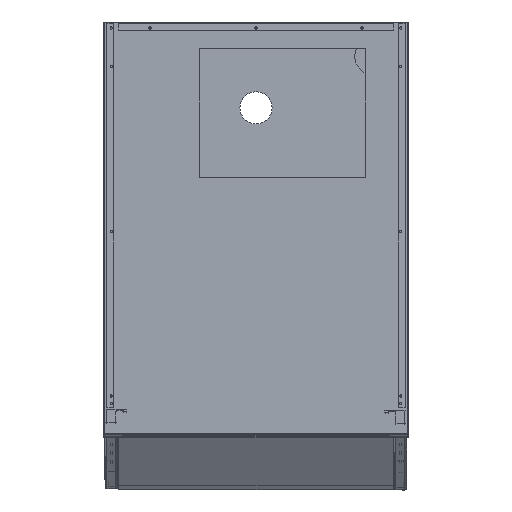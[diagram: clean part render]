
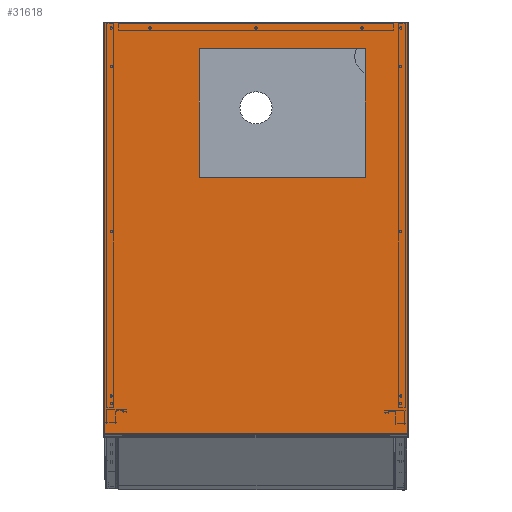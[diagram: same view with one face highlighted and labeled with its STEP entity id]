
A CAD part, top view. The second image highlights one B-rep face of the part: STEP entity #31618.
In plain terms, the highlighted planar face has unit normal (0, 0, 1).
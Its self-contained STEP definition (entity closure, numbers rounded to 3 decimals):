
#6801=ORIENTED_EDGE('',*,*,#14221,.F.);
#6802=ORIENTED_EDGE('',*,*,#14222,.F.);
#6803=ORIENTED_EDGE('',*,*,#14223,.F.);
#6804=ORIENTED_EDGE('',*,*,#14224,.F.);
#6805=ORIENTED_EDGE('',*,*,#14171,.F.);
#6806=ORIENTED_EDGE('',*,*,#14219,.F.);
#6807=ORIENTED_EDGE('',*,*,#14190,.F.);
#6808=ORIENTED_EDGE('',*,*,#14225,.T.);
#6809=ORIENTED_EDGE('',*,*,#14178,.F.);
#6810=ORIENTED_EDGE('',*,*,#14226,.T.);
#6811=ORIENTED_EDGE('',*,*,#14182,.F.);
#6812=ORIENTED_EDGE('',*,*,#14227,.T.);
#14171=EDGE_CURVE('',#18191,#18189,#21313,.T.);
#14178=EDGE_CURVE('',#18198,#18199,#21317,.T.);
#14182=EDGE_CURVE('',#18202,#18203,#21319,.T.);
#14190=EDGE_CURVE('',#18210,#18211,#21324,.T.);
#14219=EDGE_CURVE('',#18211,#18191,#21349,.T.);
#14221=EDGE_CURVE('',#18234,#18235,#21351,.T.);
#14222=EDGE_CURVE('',#18236,#18234,#21352,.T.);
#14223=EDGE_CURVE('',#18237,#18236,#21353,.T.);
#14224=EDGE_CURVE('',#18235,#18237,#21354,.T.);
#14225=EDGE_CURVE('',#18210,#18199,#21355,.T.);
#14226=EDGE_CURVE('',#18198,#18203,#21356,.T.);
#14227=EDGE_CURVE('',#18202,#18189,#21357,.T.);
#18189=VERTEX_POINT('',#49992);
#18191=VERTEX_POINT('',#49996);
#18198=VERTEX_POINT('',#50014);
#18199=VERTEX_POINT('',#50016);
#18202=VERTEX_POINT('',#50029);
#18203=VERTEX_POINT('',#50031);
#18210=VERTEX_POINT('',#50049);
#18211=VERTEX_POINT('',#50051);
#18234=VERTEX_POINT('',#50112);
#18235=VERTEX_POINT('',#50113);
#18236=VERTEX_POINT('',#50115);
#18237=VERTEX_POINT('',#50117);
#21313=LINE('',#49997,#24234);
#21317=LINE('',#50015,#24238);
#21319=LINE('',#50030,#24240);
#21324=LINE('',#50050,#24245);
#21349=LINE('',#50108,#24270);
#21351=LINE('',#50111,#24272);
#21352=LINE('',#50114,#24273);
#21353=LINE('',#50116,#24274);
#21354=LINE('',#50118,#24275);
#21355=LINE('',#50119,#24276);
#21356=LINE('',#50120,#24277);
#21357=LINE('',#50121,#24278);
#24234=VECTOR('',#39810,1000.);
#24238=VECTOR('',#39820,1000.);
#24240=VECTOR('',#39824,1000.);
#24245=VECTOR('',#39835,1000.);
#24270=VECTOR('',#39880,1000.);
#24272=VECTOR('',#39884,1000.);
#24273=VECTOR('',#39885,1000.);
#24274=VECTOR('',#39886,1000.);
#24275=VECTOR('',#39887,1000.);
#24276=VECTOR('',#39888,1000.);
#24277=VECTOR('',#39889,1000.);
#24278=VECTOR('',#39890,1000.);
#26713=EDGE_LOOP('',(#6801,#6802,#6803,#6804));
#26714=EDGE_LOOP('',(#6805,#6806,#6807,#6808,#6809,#6810,#6811,#6812));
#28862=FACE_BOUND('',#26713,.T.);
#28863=FACE_BOUND('',#26714,.T.);
#30489=PLANE('',#34079);
#31618=ADVANCED_FACE('',(#28862,#28863),#30489,.T.);
#34079=AXIS2_PLACEMENT_3D('',#50110,#39882,#39883);
#39810=DIRECTION('',(0.,-1.,0.));
#39820=DIRECTION('',(0.,1.,0.));
#39824=DIRECTION('',(0.,-1.,0.));
#39835=DIRECTION('',(0.,1.,0.));
#39880=DIRECTION('',(1.,0.,0.));
#39882=DIRECTION('',(0.,0.,1.));
#39883=DIRECTION('',(0.,-1.,0.));
#39884=DIRECTION('',(1.,0.,0.));
#39885=DIRECTION('',(0.,-1.,0.));
#39886=DIRECTION('',(-1.,0.,0.));
#39887=DIRECTION('',(0.,1.,0.));
#39888=DIRECTION('',(0.,-1.,0.));
#39889=DIRECTION('',(1.,0.,0.));
#39890=DIRECTION('',(0.,1.,0.));
#49992=CARTESIAN_POINT('',(283.398,384.091,0.7));
#49996=CARTESIAN_POINT('',(283.398,384.093,0.7));
#49997=CARTESIAN_POINT('',(283.398,384.093,0.7));
#50014=CARTESIAN_POINT('',(-283.398,-384.094,0.7));
#50015=CARTESIAN_POINT('',(-283.398,-384.094,0.7));
#50016=CARTESIAN_POINT('',(-283.398,-383.81,0.7));
#50029=CARTESIAN_POINT('',(283.398,-383.81,0.7));
#50030=CARTESIAN_POINT('',(283.398,384.093,0.7));
#50031=CARTESIAN_POINT('',(283.398,-384.094,0.7));
#50049=CARTESIAN_POINT('',(-283.398,384.091,0.7));
#50050=CARTESIAN_POINT('',(-283.398,-384.094,0.7));
#50051=CARTESIAN_POINT('',(-283.398,384.093,0.7));
#50108=CARTESIAN_POINT('',(-283.4,384.093,0.7));
#50110=CARTESIAN_POINT('',(-283.4,384.095,0.7));
#50111=CARTESIAN_POINT('',(-105.9,94.795,0.7));
#50112=CARTESIAN_POINT('',(-105.9,94.795,0.7));
#50113=CARTESIAN_POINT('',(204.1,94.795,0.7));
#50114=CARTESIAN_POINT('',(-105.9,334.795,0.7));
#50115=CARTESIAN_POINT('',(-105.9,334.795,0.7));
#50116=CARTESIAN_POINT('',(204.1,334.795,0.7));
#50117=CARTESIAN_POINT('',(204.1,334.795,0.7));
#50118=CARTESIAN_POINT('',(204.1,94.795,0.7));
#50119=CARTESIAN_POINT('',(-283.398,0.14,0.7));
#50120=CARTESIAN_POINT('',(-283.4,-384.094,0.7));
#50121=CARTESIAN_POINT('',(283.398,0.14,0.7));
